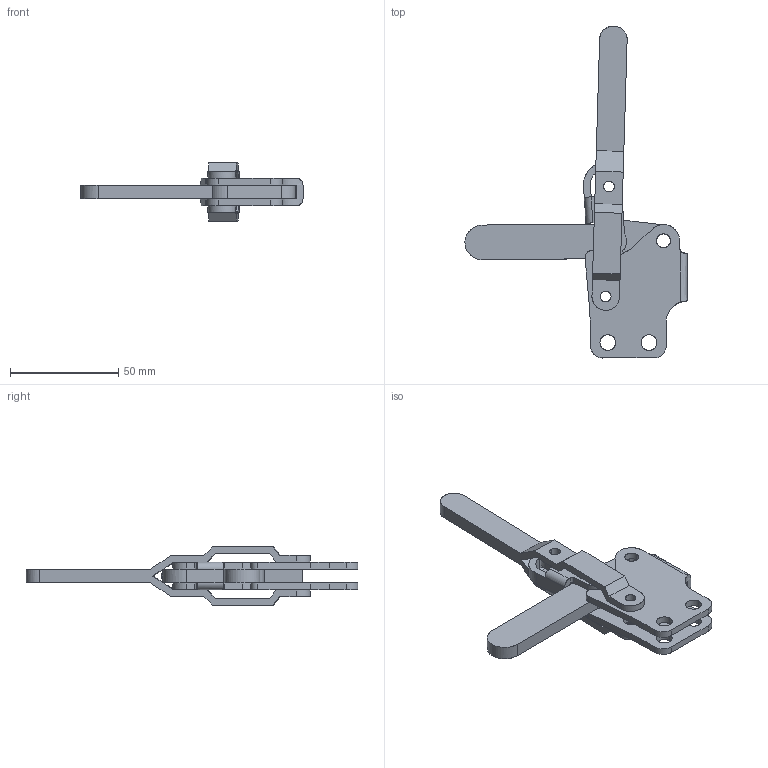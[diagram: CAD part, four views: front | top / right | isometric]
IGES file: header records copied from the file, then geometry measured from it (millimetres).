
Start section: Comment
Global section: file name: 12145.igs; native system:  By Spatial Corp.; preprocessor: XPlus PS/IGES 3.0; author: Author; organization: Title; date: 20050216.171112; units: inch
Bounding box: 102.42 x 153.12 x 26.8 mm (x, y, z)
Surface area: 25006.9 mm2 (no closed solid volume)
Topology: 0 solids, 0 shells, 156 faces, 880 edges, 880 vertices
Faces by surface type: revolution 83, extrusion 73
